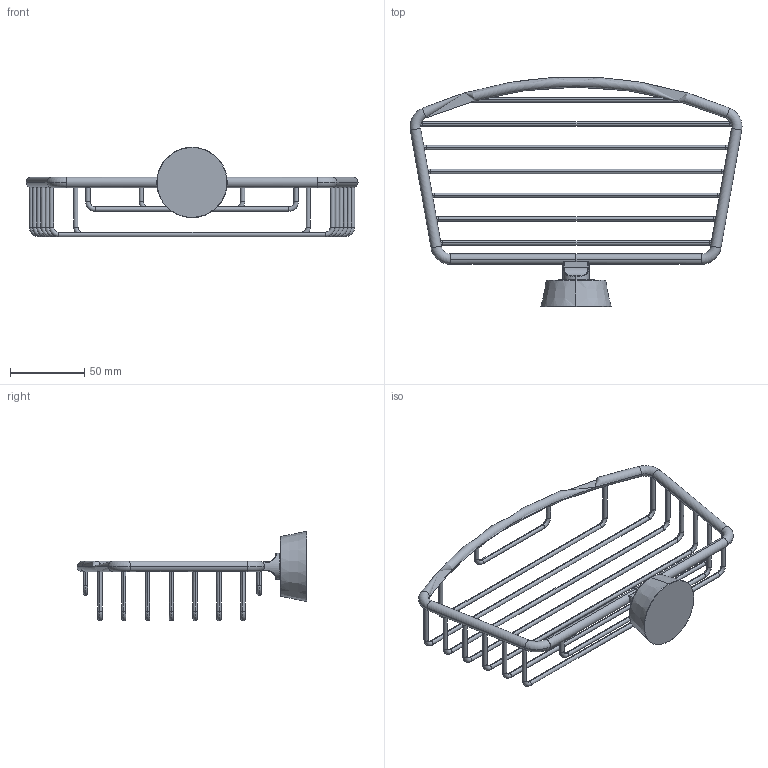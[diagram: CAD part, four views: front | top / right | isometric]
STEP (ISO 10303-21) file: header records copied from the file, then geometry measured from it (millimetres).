
FILE_DESCRIPTION(('THIS FILE CONTAINS SOME STEP INSTANCES'),'1');
FILE_NAME('viz_048.stp','2015-12-14T 7:49:07',('UNDEFINED'),('UNDEFINED'),'T-FLEX CAD STEP converter','T-FLEX CAD','');
FILE_SCHEMA(('CONFIG_CONTROL_DESIGN'));
Length unit declared in the file: metre
Products named in the file (1): 3D 鐨飹懤艜_15
Bounding box: 223 x 154.31 x 60.15 mm (x, y, z)
Volume: 65997.6 mm3; surface area: 37952.1 mm2
Topology: 1 solids, 1 shells, 141 faces, 315 edges, 173 vertices
Faces by surface type: cylinder 70, torus 48, bspline 9, plane 8, cone 6
Entity records: 9433 total; most frequent: CARTESIAN_POINT 6868, ORIENTED_EDGE 630, DIRECTION 406, EDGE_CURVE 315, VERTEX_POINT 173, AXIS2_PLACEMENT_3D 158, EDGE_LOOP 158, ADVANCED_FACE 141
